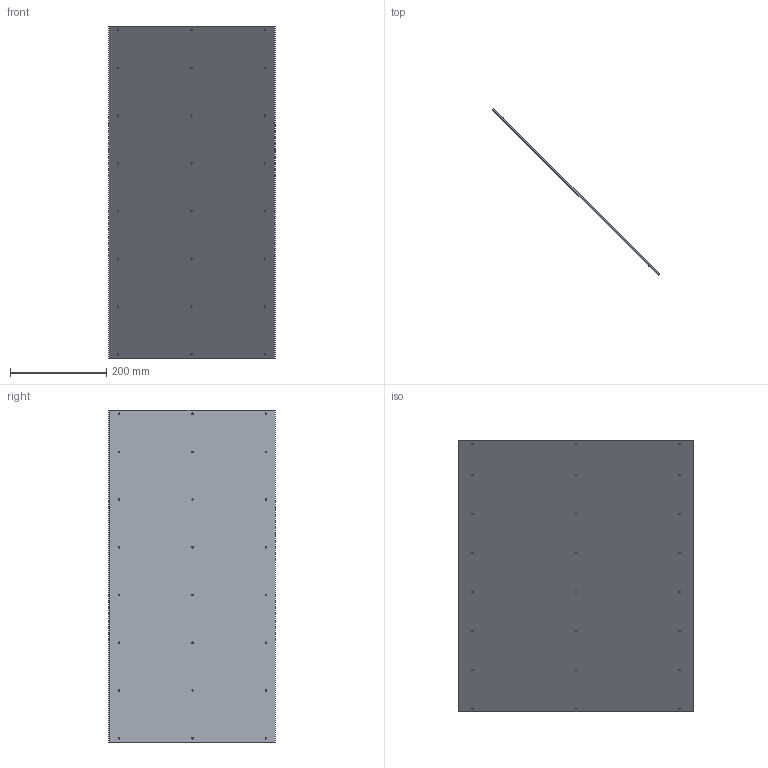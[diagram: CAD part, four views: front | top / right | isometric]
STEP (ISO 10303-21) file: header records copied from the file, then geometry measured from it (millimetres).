
FILE_DESCRIPTION(('STEP AP214'), '1');
FILE_NAME('In_Panel', '', ('UNSPECIFIED'), ('UNSPECIFIED'), 'C3D Converter', 'C3D Toolkit', '');
FILE_SCHEMA(('AUTOMOTIVE_DESIGN { 1 0 10303 214 3 1 1}'));
Length unit declared in the file: millimetre
Bounding box: 345.77 x 345.78 x 689.38 mm (x, y, z)
Volume: 1004462.3 mm3; surface area: 677462.9 mm2
Topology: 1 solids, 1 shells, 30 faces, 84 edges, 56 vertices
Faces by surface type: cylinder 24, plane 6
Full cylindrical faces by diameter (mm): 3.4 x24
Entity records: 1014 total; most frequent: DIRECTION 170, CARTESIAN_POINT 147, ORIENTED_EDGE 120, EDGE_LOOP 102, AXIS2_PLACEMENT_3D 79, EDGE_CURVE 60, VERTEX_POINT 56, FACE_BOUND 54
